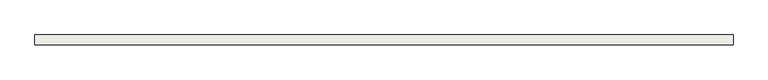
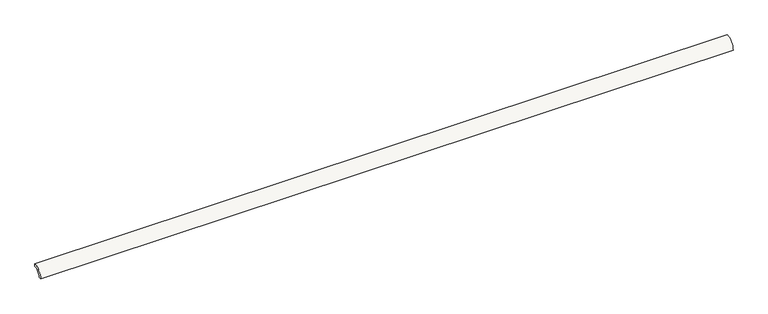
"""IFC4 building model written with IfcOpenShell, lengths in millimetres: slab geometry, ROSA GRES_138 : Pieza 138_Aqua_Marino_Anti-Slip."""

from ifc_helpers import new_model, si_unit, point, frame, frame_2d, origin, origin_2d, place, context, project, spatial, polyline, circle_curve, trimmed, segment, composite_curve, outline, extrude, source, transform, mapped, element, save


def slab_4b7f66d5(model_context):
    return source(origin(), model_context, "Body", "SweptSolid", [
        extrude(outline(composite_curve([segment(polyline([(0.0, 40.0), (0.0, 30.0265886)]), True, "CONTINUOUS"), segment(trimmed(circle_curve(frame_2d((-0.0044453, 0.0044453)), 30.0221435), [point((0.0, 30.0265886))], [point((-30.0265886, 0.0))], True, "CARTESIAN"), True, "CONTINUOUS"), segment(polyline([(-30.0265886, 0.0), (-40.0, 0.0)]), True, "CONTINUOUS"), segment(trimmed(circle_curve(origin_2d(), 40.0), [point((-40.0, 0.0))], [point((0.0, 40.0))], False, "CARTESIAN"), True, "CONTINUOUS")], self_intersect=False)), frame((0.0, 0.0, 0.0), z_axis=(1.0, 0.0, 0.0), x_axis=(0.0, 1.0, 0.0)), (0.0, 0.0, 1.0), 2780.0),
    ])


if __name__ == "__main__":
    model = new_model("IFC4")
    model_context = context("Model", 3, world=origin())
    ifc_project = project(units=[si_unit("LENGTHUNIT", "METRE", prefix="MILLI")], contexts=[model_context])
    site = spatial("IfcSite", under=ifc_project)
    building = spatial("IfcBuilding", under=site)
    placement = place(None, origin())
    slab_shape = slab_4b7f66d5(model_context)
    element("IfcSlab", 1, ObjectType="ROSA GRES_138 : Pieza 138_Aqua_Marino_Anti-Slip", at=placement, inside=building, context=model_context, shape_type="MappedRepresentation", body=[
        mapped(slab_shape, transform((0.0, 0.0, 0.0), x_axis=(1.0, 0.0, 0.0), y_axis=(0.0, 1.0, 0.0), z_axis=(0.0, 0.0, 1.0))),
    ])
    save(model, "model.ifc")
